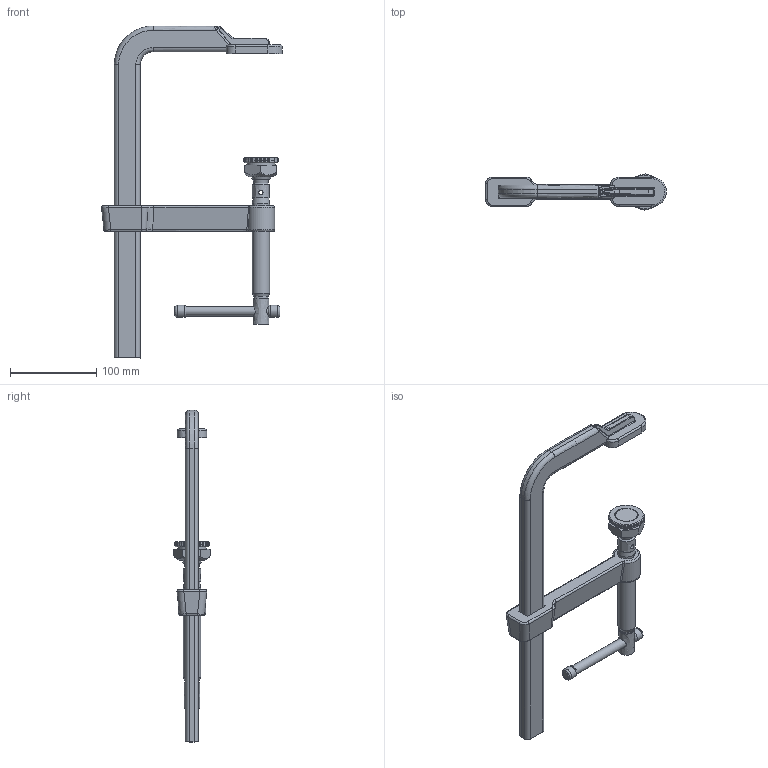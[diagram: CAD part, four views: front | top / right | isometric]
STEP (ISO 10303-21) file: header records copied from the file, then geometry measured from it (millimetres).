
FILE_DESCRIPTION( ('This file contains a STEP AP42 implementation' ,'as created by ZW3D STEP Interface translator.') ,'2;1' );
FILE_NAME( 'GSM25.stp' ,'15 7 7.145712', (''), ('ZWCAD Software Co.'), 'Version 1.0', 'ZW3D to STEP translator', '' );
FILE_SCHEMA( ('CONFIG_CONTROL_DESIGN') );
Length unit declared in the file: millimetre
Products named in the file (7): 0; GSM25; Spindel; Gleitbügel; Festbügel GSM25; Druckplatte; KNebel
Assembly tree (5 placements, depth 2):
  0
  GSM25
    Spindel
    Gleitbügel
    Festbügel GSM25
    Druckplatte
    KNebel
Bounding box: 209.77 x 41.98 x 385 mm (x, y, z)
Volume: 415718.3 mm3; surface area: 95410.9 mm2
Topology: 7 solids, 8 shells, 184 faces, 405 edges, 239 vertices
Faces by surface type: bspline 184
Entity records: 11972 total; most frequent: CARTESIAN_POINT 9256, ORIENTED_EDGE 802, EDGE_CURVE 401, B_SPLINE_CURVE_WITH_KNOTS 263, VERTEX_POINT 239, EDGE_LOOP 198, FACE_OUTER_BOUND 184, ADVANCED_FACE 184
